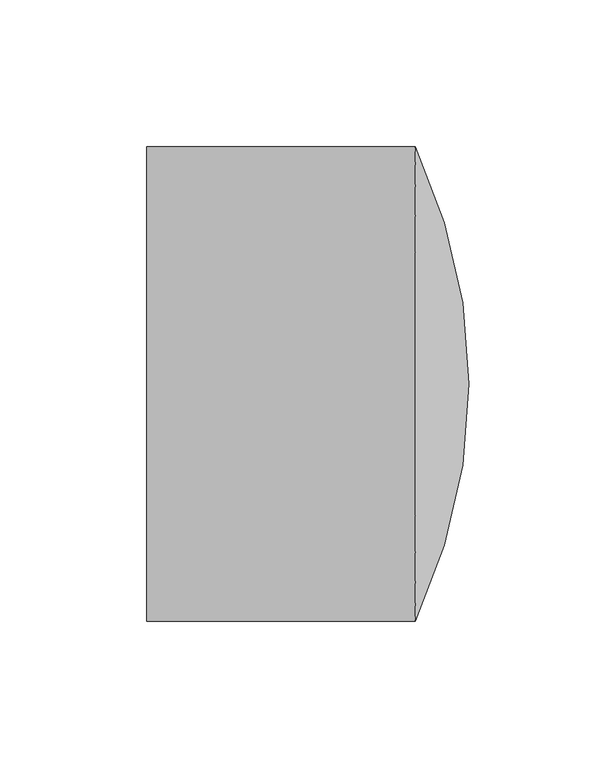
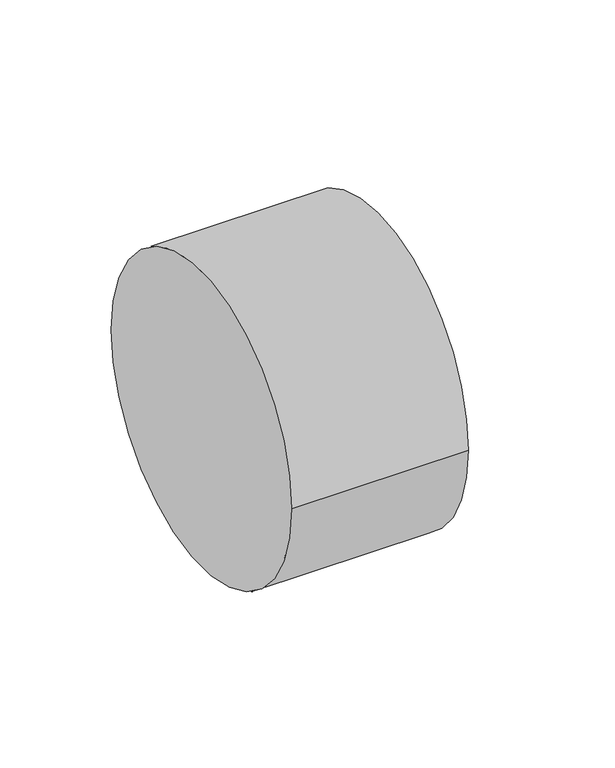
"""IFC4 building model written with IfcOpenShell, lengths in millimetres: pipe fitting geometry, 01051012 : Bouchons F."""

from ifc_helpers import new_model, si_unit, point, frame, origin, place, context, project, spatial, circle_curve, ellipse_curve, trimmed, source, transform, mapped, element, save
from ifc_brep_helpers import plane_surface, cylinder_surface, revolved_surface, advanced_brep


def pipe_fitting_4765766a(model_context):
    return source(origin(), model_context, "Body", "AdvancedBrep", [
        advanced_brep(
        [(91.6666667, 81.0, 0.0), (110.0, 0.0, 0.0), (91.6666667, -81.0, 0.0), (0.0, -81.0, 0.0), (0.0, 81.0, 0.0)],
        [
            (0, 1, circle_curve(frame((-84.037635, -1.3432233, 0.0), z_axis=(0.0, 0.0, -1.0), x_axis=(1.0, 0.0, 0.0)), 194.0422842)),
            (1, 2, circle_curve(frame((-84.037635, 1.3432233, 0.0), z_axis=(0.0, 0.0, -1.0), x_axis=(1.0, 0.0, 0.0)), 194.0422842)),
            (2, 0, circle_curve(frame((91.6666667, 0.0, 0.0), z_axis=(1.0, 0.0, 0.0), x_axis=(0.0, 1.0, 0.0)), 81.0)),
            (0, 2, circle_curve(frame((91.6666667, 0.0, 0.0), z_axis=(1.0, 0.0, 0.0), x_axis=(0.0, 1.0, 0.0)), 81.0)),
            (3, 4, circle_curve(frame((0.0, 0.0, 0.0), z_axis=(-1.0, 0.0, 0.0), x_axis=(0.0, 1.0, 0.0)), 81.0)),
            (4, 3, circle_curve(frame((0.0, 0.0, 0.0), z_axis=(-1.0, 0.0, 0.0), x_axis=(0.0, 1.0, 0.0)), 81.0)),
            (3, 2),
            (0, 4),
        ],
        [
            revolved_surface(trimmed(ellipse_curve(frame((-84.037635, -1.3432233, 0.0), z_axis=(0.0, 0.0, 1.0), x_axis=(1.0, 0.0, 0.0)), 194.0422842, 194.0422842), [point((110.0, 0.0, 0.0))], [point((91.6666667, 81.0, 0.0))], True, "CARTESIAN"), (91.6666667, 0.0, 0.0), (-1.0, 0.0, 0.0)),
            plane_surface(frame((0.0, 0.0, 0.0), z_axis=(-1.0, 0.0, 0.0), x_axis=(0.0, 0.0, 1.0))),
            cylinder_surface(frame((0.0, 0.0, 0.0), z_axis=(-1.0, 0.0, 0.0), x_axis=(0.0, 1.0, 0.0)), 81.0),
        ],
        [
            (0, [[1, 2, 3]]),
            (0, [[-1, 4, -2]]),
            (1, [[5, 6]]),
            (2, [[-5, 7, -4, 8]]),
            (2, [[-6, -8, -3, -7]]),
        ],
    ),
    ])


if __name__ == "__main__":
    model = new_model("IFC4")
    model_context = context("Model", 3, world=origin())
    ifc_project = project(units=[si_unit("LENGTHUNIT", "METRE", prefix="MILLI")], contexts=[model_context])
    site = spatial("IfcSite", under=ifc_project)
    building = spatial("IfcBuilding", under=site)
    placement = place(None, origin())
    pipe_fitting_shape = pipe_fitting_4765766a(model_context)
    element("IfcPipeFitting", 1, ObjectType="01051012 : Bouchons F", at=placement, inside=building, context=model_context, shape_type="MappedRepresentation", body=[
        mapped(pipe_fitting_shape, transform((0.0, 0.0, 0.0), x_axis=(1.0, 0.0, 0.0), y_axis=(0.0, 1.0, 0.0), z_axis=(0.0, 0.0, 1.0))),
    ])
    save(model, "model.ifc")
